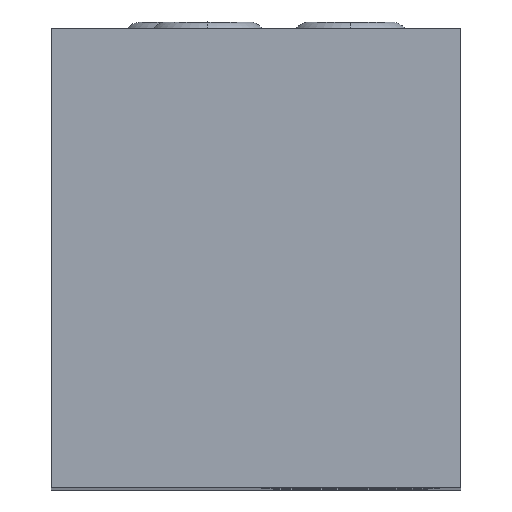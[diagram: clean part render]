
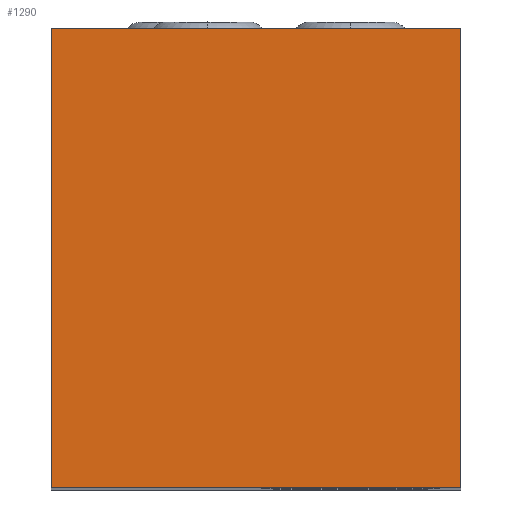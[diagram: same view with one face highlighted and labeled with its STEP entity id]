
A CAD part, top view. The second image highlights one B-rep face of the part: STEP entity #1290.
In plain terms, the highlighted planar face has unit normal (0, 0, 1).
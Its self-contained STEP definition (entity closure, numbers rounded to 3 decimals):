
#163=DIRECTION('',(0.,-1.,0.));
#164=VECTOR('',#163,25.8);
#165=CARTESIAN_POINT('',(-11.5,12.9,38.));
#166=LINE('',#165,#164);
#167=DIRECTION('',(-1.,0.,0.));
#168=VECTOR('',#167,23.);
#169=CARTESIAN_POINT('',(11.5,12.9,38.));
#170=LINE('',#169,#168);
#171=DIRECTION('',(0.,1.,0.));
#172=VECTOR('',#171,25.8);
#173=CARTESIAN_POINT('',(11.5,-12.9,38.));
#174=LINE('',#173,#172);
#175=DIRECTION('',(1.,0.,0.));
#176=VECTOR('',#175,23.);
#177=CARTESIAN_POINT('',(-11.5,-12.9,38.));
#178=LINE('',#177,#176);
#913=CARTESIAN_POINT('',(-11.5,12.9,38.));
#914=CARTESIAN_POINT('',(-11.5,-12.9,38.));
#915=VERTEX_POINT('',#913);
#916=VERTEX_POINT('',#914);
#917=CARTESIAN_POINT('',(11.5,-12.9,38.));
#918=VERTEX_POINT('',#917);
#919=CARTESIAN_POINT('',(11.5,12.9,38.));
#920=VERTEX_POINT('',#919);
#1279=CARTESIAN_POINT('',(0.,0.,38.));
#1280=DIRECTION('',(0.,0.,1.));
#1281=DIRECTION('',(1.,0.,0.));
#1282=AXIS2_PLACEMENT_3D('',#1279,#1280,#1281);
#1283=PLANE('',#1282);
#1284=ORIENTED_EDGE('',*,*,#1153,.F.);
#1285=ORIENTED_EDGE('',*,*,#1168,.F.);
#1286=ORIENTED_EDGE('',*,*,#1248,.F.);
#1287=ORIENTED_EDGE('',*,*,#1261,.F.);
#1288=EDGE_LOOP('',(#1284,#1285,#1286,#1287));
#1289=FACE_OUTER_BOUND('',#1288,.F.);
#1290=ADVANCED_FACE('',(#1289),#1283,.T.);
#1153=EDGE_CURVE('',#915,#916,#166,.T.);
#1168=EDGE_CURVE('',#920,#915,#170,.T.);
#1248=EDGE_CURVE('',#918,#920,#174,.T.);
#1261=EDGE_CURVE('',#916,#918,#178,.T.);
